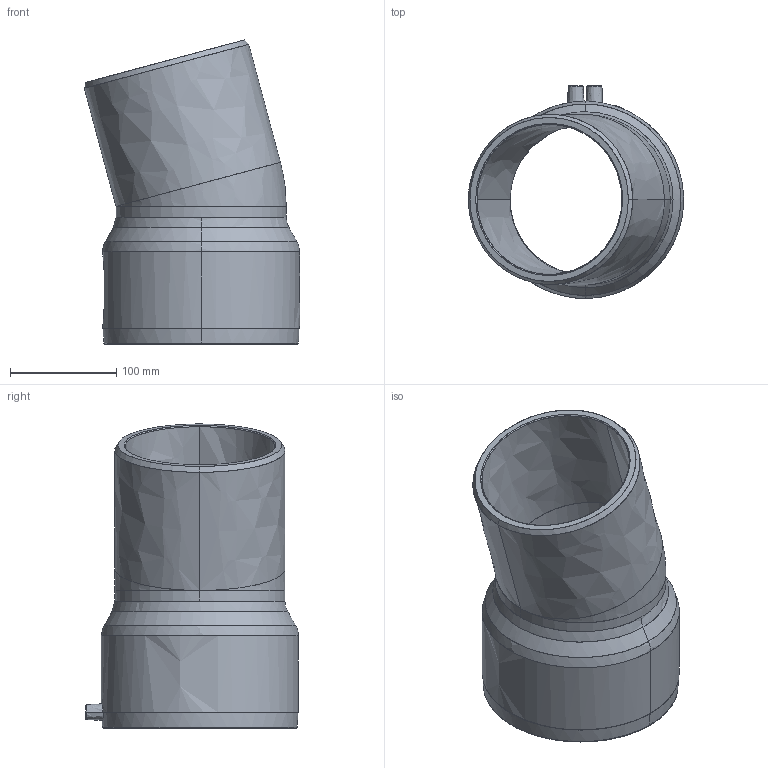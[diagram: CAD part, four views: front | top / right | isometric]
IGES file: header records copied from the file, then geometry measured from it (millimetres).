
Start section:  PTC IGES file: abms15_d160.igs
Global section: file name: abms15_d160.igs; native system: Pro/ENGINEER by Parametric Technology Corporation; preprocessor: 2011490; author: mtunjic; organization: Unknown; date: 20130723.140205; units: millimetre
Bounding box: 202.41 x 200.15 x 286.01 mm (x, y, z)
Surface area: 291257.3 mm2 (no closed solid volume)
Topology: 0 solids, 0 shells, 175 faces, 870 edges, 868 vertices
Faces by surface type: bspline 175
